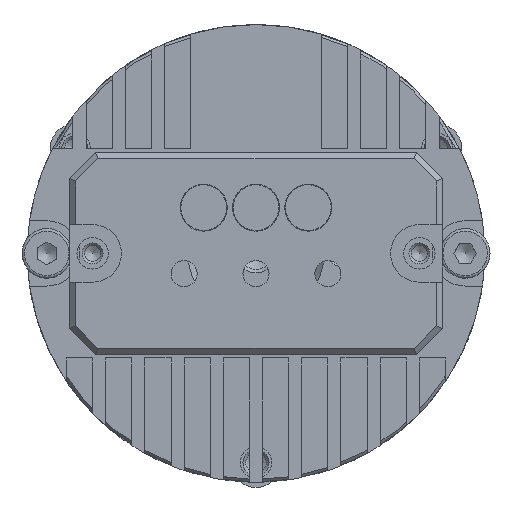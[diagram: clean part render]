
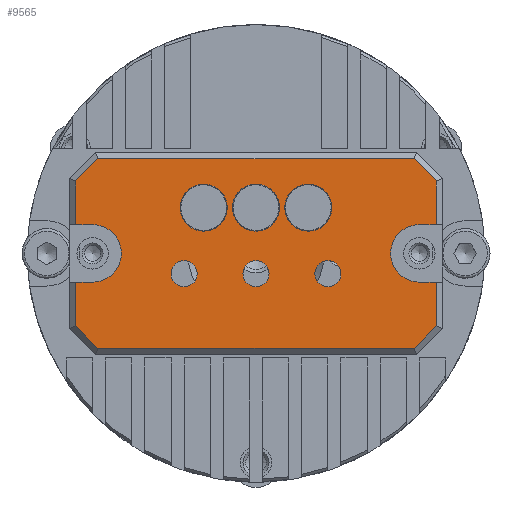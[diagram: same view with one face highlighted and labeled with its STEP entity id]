
A CAD part, left-side view. The second image highlights one B-rep face of the part: STEP entity #9565.
In plain terms, the highlighted planar face has unit normal (-1, 0, 0) as drawn and (0, 0, 1) by its records, which use the part's own axes.
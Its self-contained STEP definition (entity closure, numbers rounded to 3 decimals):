
#8187=CARTESIAN_POINT('',(6.05,-18.3,7.));
#8188=VERTEX_POINT('',#8187);
#8189=CARTESIAN_POINT('',(4.25,-18.3,7.));
#8190=DIRECTION('',(0.0,0.0,-1.0));
#8191=DIRECTION('',(-1.0,0.0,0.0));
#8192=AXIS2_PLACEMENT_3D('',#8189,#8190,#8191);
#8193=CIRCLE('',#8192,1.8);
#8194=EDGE_CURVE('',#8188,#8188,#8193,.T.);
#8215=CARTESIAN_POINT('',(6.05,-14.3,7.));
#8216=VERTEX_POINT('',#8215);
#8217=CARTESIAN_POINT('',(4.25,-14.3,7.));
#8218=DIRECTION('',(0.0,0.0,-1.0));
#8219=DIRECTION('',(-1.0,0.0,0.0));
#8220=AXIS2_PLACEMENT_3D('',#8217,#8218,#8219);
#8221=CIRCLE('',#8220,1.8);
#8222=EDGE_CURVE('',#8216,#8216,#8221,.T.);
#8243=CARTESIAN_POINT('',(10.3,-19.8,7.));
#8244=VERTEX_POINT('',#8243);
#8245=CARTESIAN_POINT('',(9.3,-19.8,7.));
#8246=DIRECTION('',(0.0,0.0,-1.0));
#8247=DIRECTION('',(-1.0,0.0,0.0));
#8248=AXIS2_PLACEMENT_3D('',#8245,#8246,#8247);
#8249=CIRCLE('',#8248,1.0);
#8250=EDGE_CURVE('',#8244,#8244,#8249,.T.);
#8271=CARTESIAN_POINT('',(10.3,-14.3,7.));
#8272=VERTEX_POINT('',#8271);
#8273=CARTESIAN_POINT('',(9.3,-14.3,7.));
#8274=DIRECTION('',(0.0,0.0,-1.0));
#8275=DIRECTION('',(-1.0,0.0,0.0));
#8276=AXIS2_PLACEMENT_3D('',#8273,#8274,#8275);
#8277=CIRCLE('',#8276,1.0);
#8278=EDGE_CURVE('',#8272,#8272,#8277,.T.);
#8299=CARTESIAN_POINT('',(10.3,-8.8,7.));
#8300=VERTEX_POINT('',#8299);
#8301=CARTESIAN_POINT('',(9.3,-8.8,7.));
#8302=DIRECTION('',(0.0,0.0,-1.0));
#8303=DIRECTION('',(-1.0,0.0,0.0));
#8304=AXIS2_PLACEMENT_3D('',#8301,#8302,#8303);
#8305=CIRCLE('',#8304,1.0);
#8306=EDGE_CURVE('',#8300,#8300,#8305,.T.);
#8616=CARTESIAN_POINT('',(5.55,-28.1,7.));
#8617=VERTEX_POINT('',#8616);
#8624=CARTESIAN_POINT('',(2.207,-28.1,7.));
#8625=VERTEX_POINT('',#8624);
#8626=CARTESIAN_POINT('',(5.55,-28.1,7.));
#8627=DIRECTION('',(-1.0,0.0,0.0));
#8628=VECTOR('',#8627,3.343);
#8629=LINE('',#8626,#8628);
#8630=EDGE_CURVE('',#8617,#8625,#8629,.T.);
#8654=CARTESIAN_POINT('',(5.55,-0.5,7.));
#8655=VERTEX_POINT('',#8654);
#8672=CARTESIAN_POINT('',(2.207,-0.5,7.));
#8673=VERTEX_POINT('',#8672);
#8680=CARTESIAN_POINT('',(2.207,-0.5,7.));
#8681=DIRECTION('',(1.0,0.0,0.0));
#8682=VECTOR('',#8681,3.343);
#8683=LINE('',#8680,#8682);
#8684=EDGE_CURVE('',#8673,#8655,#8683,.T.);
#8694=CARTESIAN_POINT('',(0.5,-2.207,7.));
#8695=VERTEX_POINT('',#8694);
#8696=CARTESIAN_POINT('',(0.5,-2.207,7.));
#8697=DIRECTION('',(0.707,0.707,0.0));
#8698=VECTOR('',#8697,2.414);
#8699=LINE('',#8696,#8698);
#8700=EDGE_CURVE('',#8695,#8673,#8699,.T.);
#8725=CARTESIAN_POINT('',(0.5,-26.393,7.));
#8726=VERTEX_POINT('',#8725);
#8727=CARTESIAN_POINT('',(0.5,-26.393,7.));
#8728=DIRECTION('',(0.0,1.0,0.0));
#8729=VECTOR('',#8728,24.186);
#8730=LINE('',#8727,#8729);
#8731=EDGE_CURVE('',#8726,#8695,#8730,.T.);
#8756=CARTESIAN_POINT('',(2.207,-28.1,7.));
#8757=DIRECTION('',(-0.707,0.707,0.0));
#8758=VECTOR('',#8757,2.414);
#8759=LINE('',#8756,#8758);
#8760=EDGE_CURVE('',#8625,#8726,#8759,.T.);
#8795=CARTESIAN_POINT('',(5.55,-26.8,7.));
#8796=VERTEX_POINT('',#8795);
#8803=CARTESIAN_POINT('',(5.55,-28.1,7.));
#8804=DIRECTION('',(0.0,1.0,0.0));
#8805=VECTOR('',#8804,1.3);
#8806=LINE('',#8803,#8805);
#8807=EDGE_CURVE('',#8617,#8796,#8806,.T.);
#9001=CARTESIAN_POINT('',(9.95,-28.1,7.));
#9002=VERTEX_POINT('',#9001);
#9010=CARTESIAN_POINT('',(13.293,-28.1,7.));
#9011=VERTEX_POINT('',#9010);
#9018=CARTESIAN_POINT('',(13.293,-28.1,7.));
#9019=DIRECTION('',(-1.0,0.0,0.0));
#9020=VECTOR('',#9019,3.343);
#9021=LINE('',#9018,#9020);
#9022=EDGE_CURVE('',#9011,#9002,#9021,.T.);
#9032=CARTESIAN_POINT('',(9.95,-0.5,7.));
#9033=VERTEX_POINT('',#9032);
#9040=CARTESIAN_POINT('',(13.293,-0.5,7.));
#9041=VERTEX_POINT('',#9040);
#9042=CARTESIAN_POINT('',(9.95,-0.5,7.));
#9043=DIRECTION('',(1.0,0.0,0.0));
#9044=VECTOR('',#9043,3.343);
#9045=LINE('',#9042,#9044);
#9046=EDGE_CURVE('',#9033,#9041,#9045,.T.);
#9063=CARTESIAN_POINT('',(15.,-2.207,7.));
#9064=VERTEX_POINT('',#9063);
#9065=CARTESIAN_POINT('',(15.,-26.393,7.));
#9066=VERTEX_POINT('',#9065);
#9067=CARTESIAN_POINT('',(15.,-2.207,7.));
#9068=DIRECTION('',(0.0,-1.0,0.0));
#9069=VECTOR('',#9068,24.186);
#9070=LINE('',#9067,#9069);
#9071=EDGE_CURVE('',#9064,#9066,#9070,.T.);
#9103=CARTESIAN_POINT('',(13.293,-0.5,7.));
#9104=DIRECTION('',(0.707,-0.707,0.0));
#9105=VECTOR('',#9104,2.414);
#9106=LINE('',#9103,#9105);
#9107=EDGE_CURVE('',#9041,#9064,#9106,.T.);
#9125=CARTESIAN_POINT('',(15.,-26.393,7.));
#9126=DIRECTION('',(-0.707,-0.707,0.0));
#9127=VECTOR('',#9126,2.414);
#9128=LINE('',#9125,#9127);
#9129=EDGE_CURVE('',#9066,#9011,#9128,.T.);
#9157=CARTESIAN_POINT('',(9.95,-1.8,7.));
#9158=VERTEX_POINT('',#9157);
#9165=CARTESIAN_POINT('',(9.95,-0.5,7.));
#9166=DIRECTION('',(0.0,-1.0,0.0));
#9167=VECTOR('',#9166,1.3);
#9168=LINE('',#9165,#9167);
#9169=EDGE_CURVE('',#9033,#9158,#9168,.T.);
#9230=CARTESIAN_POINT('',(6.05,-10.3,7.));
#9231=VERTEX_POINT('',#9230);
#9232=CARTESIAN_POINT('',(4.25,-10.3,7.));
#9233=DIRECTION('',(0.0,0.0,-1.0));
#9234=DIRECTION('',(-1.0,0.0,0.0));
#9235=AXIS2_PLACEMENT_3D('',#9232,#9233,#9234);
#9236=CIRCLE('',#9235,1.8);
#9237=EDGE_CURVE('',#9231,#9231,#9236,.T.);
#9248=CARTESIAN_POINT('',(5.55,-1.8,7.));
#9249=VERTEX_POINT('',#9248);
#9250=CARTESIAN_POINT('',(5.55,-1.8,7.));
#9251=DIRECTION('',(0.0,1.0,0.0));
#9252=VECTOR('',#9251,1.3);
#9253=LINE('',#9250,#9252);
#9254=EDGE_CURVE('',#9249,#8655,#9253,.T.);
#9280=CARTESIAN_POINT('',(9.95,-26.8,7.));
#9281=VERTEX_POINT('',#9280);
#9282=CARTESIAN_POINT('',(9.95,-26.8,7.));
#9283=DIRECTION('',(0.0,-1.0,0.0));
#9284=VECTOR('',#9283,1.3);
#9285=LINE('',#9282,#9284);
#9286=EDGE_CURVE('',#9281,#9002,#9285,.T.);
#9341=CARTESIAN_POINT('',(7.75,-1.8,7.));
#9342=DIRECTION('',(0.0,0.0,-1.0));
#9343=DIRECTION('',(1.0,0.0,0.0));
#9344=AXIS2_PLACEMENT_3D('',#9341,#9342,#9343);
#9345=CIRCLE('',#9344,2.2);
#9346=EDGE_CURVE('',#9158,#9249,#9345,.T.);
#9407=CARTESIAN_POINT('',(7.75,-26.8,7.));
#9408=DIRECTION('',(0.0,0.0,-1.0));
#9409=DIRECTION('',(1.0,0.0,0.0));
#9410=AXIS2_PLACEMENT_3D('',#9407,#9408,#9409);
#9411=CIRCLE('',#9410,2.2);
#9412=EDGE_CURVE('',#8796,#9281,#9411,.T.);
#9524=CARTESIAN_POINT('',(7.75,-14.3,7.));
#9525=DIRECTION('',(0.0,0.0,1.0));
#9526=DIRECTION('',(1.0,0.0,0.0));
#9527=AXIS2_PLACEMENT_3D('',#9524,#9525,#9526);
#9528=PLANE('',#9527);
#9529=ORIENTED_EDGE('',*,*,#8630,.F.);
#9530=ORIENTED_EDGE('',*,*,#8807,.T.);
#9531=ORIENTED_EDGE('',*,*,#9412,.T.);
#9532=ORIENTED_EDGE('',*,*,#9286,.T.);
#9533=ORIENTED_EDGE('',*,*,#9022,.F.);
#9534=ORIENTED_EDGE('',*,*,#9129,.F.);
#9535=ORIENTED_EDGE('',*,*,#9071,.F.);
#9536=ORIENTED_EDGE('',*,*,#9107,.F.);
#9537=ORIENTED_EDGE('',*,*,#9046,.F.);
#9538=ORIENTED_EDGE('',*,*,#9169,.T.);
#9539=ORIENTED_EDGE('',*,*,#9346,.T.);
#9540=ORIENTED_EDGE('',*,*,#9254,.T.);
#9541=ORIENTED_EDGE('',*,*,#8684,.F.);
#9542=ORIENTED_EDGE('',*,*,#8700,.F.);
#9543=ORIENTED_EDGE('',*,*,#8731,.F.);
#9544=ORIENTED_EDGE('',*,*,#8760,.F.);
#9545=EDGE_LOOP('',(#9529,#9530,#9531,#9532,#9533,#9534,#9535,#9536,#9537,#9538,#9539,#9540,#9541,#9542,#9543,#9544));
#9546=FACE_OUTER_BOUND('',#9545,.T.);
#9547=ORIENTED_EDGE('',*,*,#8194,.T.);
#9548=EDGE_LOOP('',(#9547));
#9549=FACE_BOUND('',#9548,.T.);
#9550=ORIENTED_EDGE('',*,*,#8222,.T.);
#9551=EDGE_LOOP('',(#9550));
#9552=FACE_BOUND('',#9551,.T.);
#9553=ORIENTED_EDGE('',*,*,#8250,.T.);
#9554=EDGE_LOOP('',(#9553));
#9555=FACE_BOUND('',#9554,.T.);
#9556=ORIENTED_EDGE('',*,*,#8278,.T.);
#9557=EDGE_LOOP('',(#9556));
#9558=FACE_BOUND('',#9557,.T.);
#9559=ORIENTED_EDGE('',*,*,#8306,.T.);
#9560=EDGE_LOOP('',(#9559));
#9561=FACE_BOUND('',#9560,.T.);
#9562=ORIENTED_EDGE('',*,*,#9237,.T.);
#9563=EDGE_LOOP('',(#9562));
#9564=FACE_BOUND('',#9563,.T.);
#9565=ADVANCED_FACE('',(#9546,#9549,#9552,#9555,#9558,#9561,#9564),#9528,.T.);
